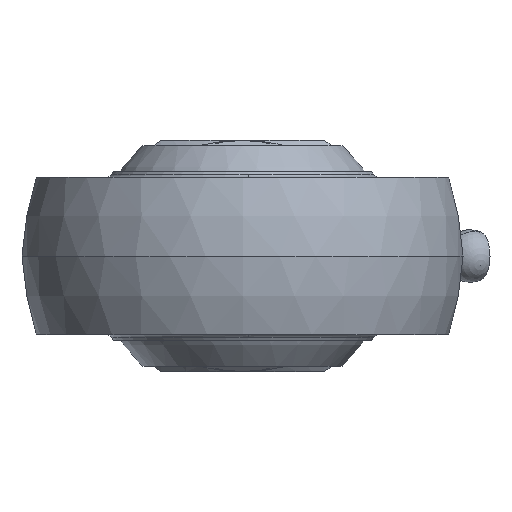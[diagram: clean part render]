
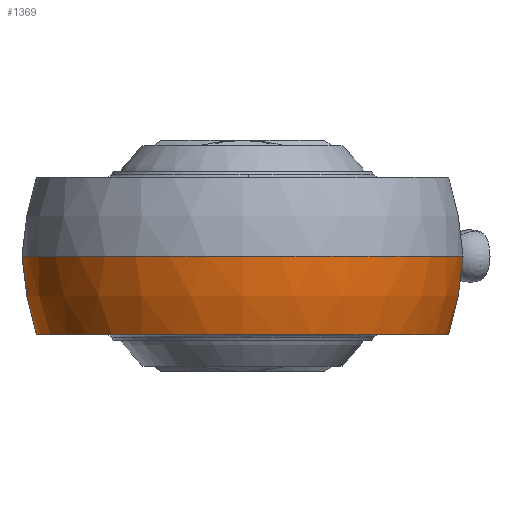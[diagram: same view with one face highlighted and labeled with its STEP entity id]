
A CAD part, left-side view. The second image highlights one B-rep face of the part: STEP entity #1369.
In plain terms, the highlighted spherical face has radius 21 mm.
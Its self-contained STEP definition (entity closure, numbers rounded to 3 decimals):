
#1043 = ORIENTED_EDGE ( 'NONE', *, *, #1053, .T. ) ;
#1046 = EDGE_CURVE ( 'NONE', #1048, #1323, #3225, .T. ) ;
#1048 = VERTEX_POINT ( 'NONE', #3410 ) ;
#1049 = EDGE_CURVE ( 'NONE', #1050, #1327, #3383, .T. ) ;
#1050 = VERTEX_POINT ( 'NONE', #3404 ) ;
#1051 = ORIENTED_EDGE ( 'NONE', *, *, #1049, .F. ) ;
#1052 = ORIENTED_EDGE ( 'NONE', *, *, #1046, .T. ) ;
#1053 = EDGE_CURVE ( 'NONE', #1050, #1048, #3360, .T. ) ;
#1322 = EDGE_CURVE ( 'NONE', #1323, #1324, #3976, .T. ) ;
#1323 = VERTEX_POINT ( 'NONE', #3977 ) ;
#1324 = VERTEX_POINT ( 'NONE', #3971 ) ;
#1325 = ORIENTED_EDGE ( 'NONE', *, *, #1326, .T. ) ;
#1326 = EDGE_CURVE ( 'NONE', #1324, #1327, #4125, .T. ) ;
#1327 = VERTEX_POINT ( 'NONE', #4121 ) ;
#1369 = ADVANCED_FACE ( 'NONE', ( #3981 ), #3914, .T. ) ;
#1370 = EDGE_LOOP ( 'NONE', ( #1371, #1325, #1051, #1043, #1052 ) ) ;
#1371 = ORIENTED_EDGE ( 'NONE', *, *, #1322, .T. ) ;
#2716 = DIRECTION ( 'NONE',  ( 1., 0., 0. ) ) ;
#3218 = DIRECTION ( 'NONE',  ( 0., 0., 1. ) ) ;
#3219 = CARTESIAN_POINT ( 'NONE',  ( 0., 0., -7.5 ) ) ;
#3220 = AXIS2_PLACEMENT_3D ( 'NONE', #3219, #3218, #2716 ) ;
#3225 = CIRCLE ( 'NONE', #3220, 19.615 ) ;
#3360 = CIRCLE ( 'NONE', #3365, 18.908 ) ;
#3364 = DIRECTION ( 'NONE',  ( -1., 0., 0. ) ) ;
#3365 = AXIS2_PLACEMENT_3D ( 'NONE', #3384, #3364, #3388 ) ;
#3371 = DIRECTION ( 'NONE',  ( 0., 0., 1. ) ) ;
#3382 = AXIS2_PLACEMENT_3D ( 'NONE', #3408, #3371, #3390 ) ;
#3383 = CIRCLE ( 'NONE', #3382, 21. ) ;
#3384 = CARTESIAN_POINT ( 'NONE',  ( 9.138, 0., 0. ) ) ;
#3388 = DIRECTION ( 'NONE',  ( 0., 0., 1. ) ) ;
#3390 = DIRECTION ( 'NONE',  ( 1., 0., 0. ) ) ;
#3404 = CARTESIAN_POINT ( 'NONE',  ( 9.138, 18.908, 0. ) ) ;
#3408 = CARTESIAN_POINT ( 'NONE',  ( 0., 0., 0. ) ) ;
#3410 = CARTESIAN_POINT ( 'NONE',  ( 9.138, 17.357, -7.5 ) ) ;
#3910 = DIRECTION ( 'NONE',  ( 0., 1., 0. ) ) ;
#3911 = DIRECTION ( 'NONE',  ( 0., 0., -1. ) ) ;
#3912 = CARTESIAN_POINT ( 'NONE',  ( 0., 0., 0. ) ) ;
#3913 = AXIS2_PLACEMENT_3D ( 'NONE', #3912, #3911, #3910 ) ;
#3914 = SPHERICAL_SURFACE ( 'NONE', #3913, 21. ) ;
#3970 = CARTESIAN_POINT ( 'NONE',  ( 0., 0., 0. ) ) ;
#3971 = CARTESIAN_POINT ( 'NONE',  ( 9.138, -18.908, 0. ) ) ;
#3972 = DIRECTION ( 'NONE',  ( 0., 0., 1. ) ) ;
#3973 = DIRECTION ( 'NONE',  ( -1., 0., 0. ) ) ;
#3974 = CARTESIAN_POINT ( 'NONE',  ( 9.138, 0., 0. ) ) ;
#3975 = AXIS2_PLACEMENT_3D ( 'NONE', #3974, #3973, #3972 ) ;
#3976 = CIRCLE ( 'NONE', #3975, 18.908 ) ;
#3977 = CARTESIAN_POINT ( 'NONE',  ( 9.138, -17.357, -7.5 ) ) ;
#3981 = FACE_OUTER_BOUND ( 'NONE', #1370, .T. ) ;
#4121 = CARTESIAN_POINT ( 'NONE',  ( -21., 0., 0. ) ) ;
#4122 = DIRECTION ( 'NONE',  ( 0., 1., 0. ) ) ;
#4123 = DIRECTION ( 'NONE',  ( 0., 0., -1. ) ) ;
#4124 = AXIS2_PLACEMENT_3D ( 'NONE', #3970, #4123, #4122 ) ;
#4125 = CIRCLE ( 'NONE', #4124, 21. ) ;
